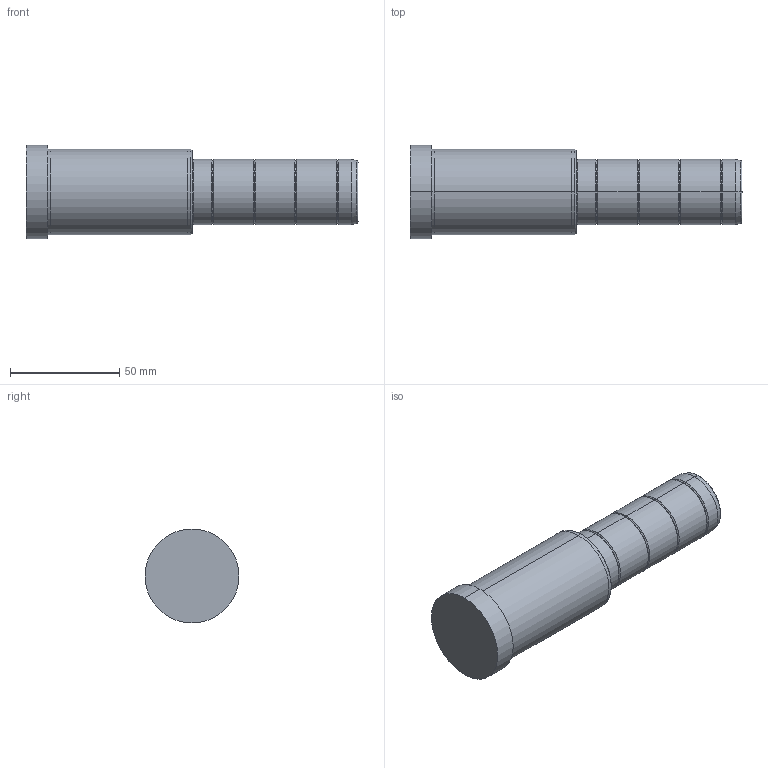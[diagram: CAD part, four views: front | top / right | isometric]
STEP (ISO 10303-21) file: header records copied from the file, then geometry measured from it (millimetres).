
FILE_DESCRIPTION( ( 'STEP AP203' ), '1' );
FILE_NAME( 'C:/Projects/D02 - 30x76x76.step', '2002-12-31T22:45:10', ( ' ' ), ( ' ' ), 'XStep 1.0', ' ', ' ' );
FILE_SCHEMA( ( 'CONFIG_CONTROL_DESIGN' ) );
Length unit declared in the file: metre
Products named in the file (1): 1
Bounding box: 152 x 43 x 43 mm (x, y, z)
Volume: 146885.8 mm3; surface area: 19565.3 mm2
Topology: 1 solids, 1 shells, 48 faces, 94 edges, 52 vertices
Faces by surface type: bspline 26, revolution 22
Entity records: 1523 total; most frequent: CARTESIAN_POINT 617, ORIENTED_EDGE 188, DIRECTION 150, EDGE_CURVE 94, AXIS2_PLACEMENT_3D 53, EDGE_LOOP 52, VERTEX_POINT 52, CIRCLE 52
